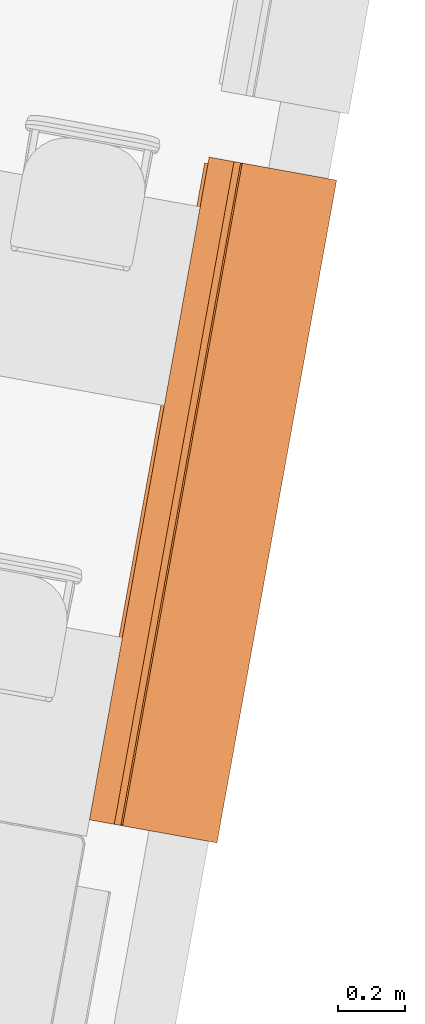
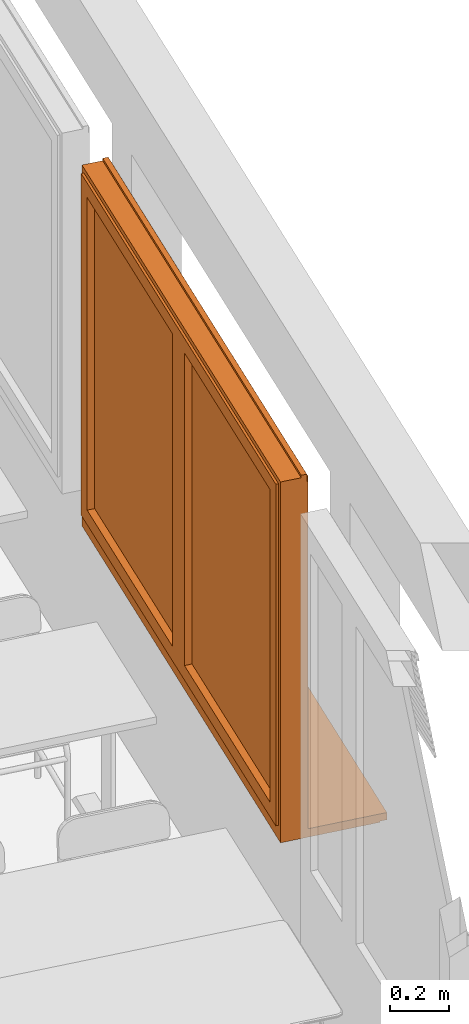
# One storey, part 55 of 79: 1 proxy.
"""IFC2X3 building model written with IfcOpenShell, lengths in metres."""

from ifc_helpers import new_model, entity, si_unit, converted_unit, derived_unit, money_unit, direction, frame, origin_with_axes, place, context, subcontext, project, spatial, open_shell, faceted_brep, surface_model, material, type_object, element, save


model = new_model("IFC2X3")

# Units and contexts
model_context = context("Model", 3, precision=1e-05, world=origin_with_axes(), true_north=direction((0.0, 1.0)))
body_context = subcontext(model_context, "Body", "Model", "MODEL_VIEW")
ifc_project = project(units=[si_unit("LENGTHUNIT", "METRE"), si_unit("AREAUNIT", "SQUARE_METRE"), si_unit("VOLUMEUNIT", "CUBIC_METRE"), converted_unit("PLANEANGLEUNIT", "DEGREE", entity("IfcPlaneAngleMeasure", 0.0174532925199), si_unit("PLANEANGLEUNIT", "RADIAN"), dimensions=[0, 0, 0, 0, 0, 0, 0]), money_unit("CHF"), converted_unit("TIMEUNIT", "Year", entity("IfcTimeMeasure", 31556926.0), si_unit("TIMEUNIT", "SECOND"), dimensions=[0, 0, 1, 0, 0, 0, 0]), si_unit("MASSUNIT", "GRAM", prefix="KILO"), si_unit("THERMODYNAMICTEMPERATUREUNIT", "DEGREE_CELSIUS"), si_unit("LUMINOUSINTENSITYUNIT", "LUMEN"), si_unit("ENERGYUNIT", "JOULE", prefix="MEGA"), derived_unit("THERMALCONDUCTANCEUNIT", [(si_unit("POWERUNIT", "WATT"), 1), (si_unit("LENGTHUNIT", "METRE"), -1), (si_unit("THERMODYNAMICTEMPERATUREUNIT", "KELVIN"), -1)]), derived_unit("SPECIFICHEATCAPACITYUNIT", [(si_unit("ENERGYUNIT", "JOULE"), 1), (si_unit("MASSUNIT", "GRAM", prefix="KILO"), -1), (si_unit("THERMODYNAMICTEMPERATUREUNIT", "KELVIN"), -1)]), derived_unit("MASSDENSITYUNIT", [(si_unit("MASSUNIT", "GRAM", prefix="KILO"), 1), (si_unit("VOLUMEUNIT", "CUBIC_METRE"), -1)])], contexts=[model_context])

# Site, building, storey
site_placement = place(None, frame((0.0, 0.0, 0.0), z_axis=(0.0, 0.0, 1.0), x_axis=(-0.177771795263, -0.984071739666, 0.0)))
site = spatial("IfcSite", under=ifc_project, at=site_placement, Name="Site", CompositionType="ELEMENT")
building_placement = place(site_placement, origin_with_axes())
building = spatial("IfcBuilding", under=site, at=building_placement, Name="Bâtiment", CompositionType="ELEMENT")
storey_placement = place(building_placement, origin_with_axes())
storey = spatial("IfcBuildingStorey", under=building, at=storey_placement, Name="RDC", CompositionType="ELEMENT", Elevation=0.0)

# Proxy
ifc_material = material(Name="Matériau de construction IFC")
building_element_proxy_type = type_object("IfcBuildingElementProxyType", Name="Fenêtre double 21", PredefinedType="NOTDEFINED")
proxy_placement = place(storey_placement, frame((162.299841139, -148.117150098, 1.0), z_axis=(0.0, 0.0, 1.0), x_axis=(-1.0, 0.0, 0.0)))
element("IfcBuildingElementProxy", 1, at=proxy_placement, inside=storey, type_object=building_element_proxy_type, material=ifc_material, Name="Fen classe-200", context=body_context, shape_type="SurfaceModel", body=[
    faceted_brep([(2.0, 0.285, 0.005), (2.0, 0.285, 0.035), (2.0, 0.0, 0.035), (2.0, 0.0, 0.005), (0.0, 0.285, 0.005), (0.0, 0.285, 0.035), (0.0, 0.0, 0.035), (0.0, -0.0249999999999, 0.035), (2.0, -0.0249999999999, 0.035), (2.0, -0.0249999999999, 0.005), (0.0, -0.0249999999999, 0.005), (0.0, 0.0, 0.005)], [[[0, 1, 2, 3]], [[4, 5, 1, 0]], [[1, 5, 6, 7, 8, 2]], [[3, 2, 8, 9]], [[0, 3, 9, 10, 11, 4]], [[11, 6, 5, 4]], [[10, 7, 6, 11]], [[9, 8, 7, 10]]]),
    faceted_brep([(2.0, 0.285, 0.0), (2.0, 0.285, 0.005), (2.0, 0.0, 0.005), (2.0, 0.0, 0.0), (0.0, 0.285, 0.0), (0.0, 0.285, 0.005), (0.0, 0.0, 0.005), (0.0, 0.0, 0.0)], [[[0, 1, 2, 3]], [[4, 5, 1, 0]], [[1, 5, 6, 2]], [[3, 2, 6, 7]], [[0, 3, 7, 4]], [[7, 6, 5, 4]]]),
    faceted_brep([(2.0, 0.285, 1.48), (2.0, 0.265, 1.48), (1.997, 0.265, 1.48), (1.997, 0.285, 1.48), (2.0, 0.285, 1.51), (2.0, 0.265, 1.51), (1.997, 0.265, 1.51), (1.997, 0.285, 1.51)], [[[0, 1, 2, 3]], [[0, 4, 5, 1]], [[1, 5, 6, 2]], [[3, 2, 6, 7]], [[4, 0, 3, 7]], [[5, 4, 7, 6]]]),
    faceted_brep([(0.00299999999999, 0.285, 1.48), (0.00299999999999, 0.265, 1.48), (0.0, 0.265, 1.48), (0.0, 0.285, 1.48), (0.00299999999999, 0.285, 1.51), (0.00299999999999, 0.265, 1.51), (0.0, 0.265, 1.51), (0.0, 0.285, 1.51)], [[[0, 1, 2, 3]], [[0, 4, 5, 1]], [[1, 5, 6, 2]], [[3, 2, 6, 7]], [[4, 0, 3, 7]], [[5, 4, 7, 6]]]),
    faceted_brep([(1.997, 0.285, 1.48), (1.997, 0.282, 1.48), (0.00299999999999, 0.282, 1.48), (0.00299999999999, 0.285, 1.48), (1.997, 0.285, 1.51), (1.997, 0.265, 1.51), (1.997, 0.265, 1.48), (1.997, 0.268, 1.48), (1.997, 0.268, 1.5), (1.997, 0.26, 1.5), (1.997, 0.26, 1.48), (1.997, 0.263, 1.48), (1.997, 0.263, 1.503), (1.997, 0.268, 1.503), (1.997, 0.268, 1.507), (1.997, 0.282, 1.507), (1.997, 0.282, 1.5), (0.00299999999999, 0.282, 1.5), (0.00299999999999, 0.282, 1.507), (0.00299999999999, 0.268, 1.507), (0.00299999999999, 0.268, 1.503), (0.00299999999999, 0.263, 1.503), (0.00299999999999, 0.263, 1.48), (0.00299999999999, 0.26, 1.48), (0.00299999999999, 0.26, 1.5), (0.00299999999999, 0.268, 1.5), (0.00299999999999, 0.268, 1.48), (0.00299999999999, 0.265, 1.48), (0.00299999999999, 0.265, 1.51), (0.00299999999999, 0.285, 1.51)], [[[0, 1, 2, 3]], [[0, 4, 5, 6, 7, 8, 9, 10, 11, 12, 13, 14, 15, 16, 1]], [[1, 16, 17, 2]], [[3, 2, 17, 18, 19, 20, 21, 22, 23, 24, 25, 26, 27, 28, 29]], [[4, 0, 3, 29]], [[5, 4, 29, 28]], [[6, 5, 28, 27]], [[7, 6, 27, 26]], [[8, 7, 26, 25]], [[9, 8, 25, 24]], [[10, 9, 24, 23]], [[11, 10, 23, 22]], [[12, 11, 22, 21]], [[13, 12, 21, 20]], [[14, 13, 20, 19]], [[15, 14, 19, 18]], [[16, 15, 18, 17]]]),
    faceted_brep([(0.0, 0.285, 0.03), (0.0, 0.26, 0.03), (0.0, 0.26, 1.48), (0.0, 0.285, 1.48), (0.025, 0.285, 0.03), (0.025, 0.282, 0.03), (0.00299999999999, 0.282, 0.03), (0.00299999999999, 0.263, 0.03), (0.025, 0.263, 0.03), (0.025, 0.26, 0.03), (0.025, 0.26, 1.48), (0.025, 0.263, 1.48), (0.00299999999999, 0.263, 1.48), (0.00299999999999, 0.282, 1.48), (0.025, 0.282, 1.48), (0.025, 0.285, 1.48)], [[[0, 1, 2, 3]], [[0, 4, 5, 6, 7, 8, 9, 1]], [[1, 9, 10, 2]], [[3, 2, 10, 11, 12, 13, 14, 15]], [[4, 0, 3, 15]], [[5, 4, 15, 14]], [[6, 5, 14, 13]], [[7, 6, 13, 12]], [[8, 7, 12, 11]], [[9, 8, 11, 10]]]),
    faceted_brep([(2.0, 0.285, 0.03), (2.0, 0.285, 1.48), (2.0, 0.26, 1.48), (2.0, 0.26, 0.03), (1.975, 0.285, 0.03), (1.975, 0.285, 1.48), (1.975, 0.282, 1.48), (1.997, 0.282, 1.48), (1.997, 0.263, 1.48), (1.975, 0.263, 1.48), (1.975, 0.26, 1.48), (1.975, 0.26, 0.03), (1.975, 0.263, 0.03), (1.997, 0.263, 0.03), (1.997, 0.282, 0.03), (1.975, 0.282, 0.03)], [[[0, 1, 2, 3]], [[4, 5, 1, 0]], [[1, 5, 6, 7, 8, 9, 10, 2]], [[3, 2, 10, 11]], [[0, 3, 11, 12, 13, 14, 15, 4]], [[15, 6, 5, 4]], [[14, 7, 6, 15]], [[13, 8, 7, 14]], [[12, 9, 8, 13]], [[11, 10, 9, 12]]]),
    faceted_brep([(0.00299999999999, 0.27375, 1.505), (1.997, 0.27375, 1.505), (1.997, 0.273333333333, 1.50333333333), (0.00299999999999, 0.273333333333, 1.50333333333), (0.00299999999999, 0.26875, 1.505), (1.997, 0.26875, 1.505), (1.997, 0.268333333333, 1.50333333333), (1.997, 0.268333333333, 1.49666666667), (1.997, 0.27, 1.49), (1.997, 0.275, 1.49), (1.997, 0.273333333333, 1.49666666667), (0.00299999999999, 0.273333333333, 1.49666666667), (0.00299999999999, 0.275, 1.49), (0.00299999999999, 0.27, 1.49), (0.00299999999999, 0.268333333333, 1.49666666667), (0.00299999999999, 0.268333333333, 1.50333333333)], [[[0, 1, 2, 3]], [[1, 0, 4, 5]], [[1, 5, 6, 7, 8, 9, 10, 2]], [[2, 10, 11, 3]], [[4, 0, 3, 11, 12, 13, 14, 15]], [[6, 5, 4, 15]], [[7, 6, 15, 14]], [[8, 7, 14, 13]], [[9, 8, 13, 12]], [[10, 9, 12, 11]]]),
    faceted_brep([(1.997, 0.275, 1.49), (1.997, 0.273333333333, 1.48333333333), (0.00299999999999, 0.273333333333, 1.48333333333), (0.00299999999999, 0.275, 1.49), (1.997, 0.27, 1.49), (1.997, 0.268333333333, 1.48333333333), (1.997, 0.268333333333, 1.47666666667), (1.997, 0.27, 1.47), (1.997, 0.275, 1.47), (1.997, 0.273333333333, 1.47666666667), (0.00299999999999, 0.273333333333, 1.47666666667), (0.00299999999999, 0.275, 1.47), (0.00299999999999, 0.27, 1.47), (0.00299999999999, 0.268333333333, 1.47666666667), (0.00299999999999, 0.268333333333, 1.48333333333), (0.00299999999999, 0.27, 1.49)], [[[0, 1, 2, 3]], [[0, 4, 5, 6, 7, 8, 9, 1]], [[1, 9, 10, 2]], [[3, 2, 10, 11, 12, 13, 14, 15]], [[4, 0, 3, 15]], [[5, 4, 15, 14]], [[6, 5, 14, 13]], [[7, 6, 13, 12]], [[8, 7, 12, 11]], [[9, 8, 11, 10]]]),
    faceted_brep([(1.997, 0.275, 1.47), (1.997, 0.273333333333, 1.46333333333), (0.00299999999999, 0.273333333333, 1.46333333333), (0.00299999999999, 0.275, 1.47), (1.997, 0.27, 1.47), (1.997, 0.268333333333, 1.46333333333), (1.997, 0.268333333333, 1.45666666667), (1.997, 0.27, 1.45), (1.997, 0.275, 1.45), (1.997, 0.273333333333, 1.45666666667), (0.00299999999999, 0.273333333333, 1.45666666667), (0.00299999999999, 0.275, 1.45), (0.00299999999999, 0.27, 1.45), (0.00299999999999, 0.268333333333, 1.45666666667), (0.00299999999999, 0.268333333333, 1.46333333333), (0.00299999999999, 0.27, 1.47)], [[[0, 1, 2, 3]], [[0, 4, 5, 6, 7, 8, 9, 1]], [[1, 9, 10, 2]], [[3, 2, 10, 11, 12, 13, 14, 15]], [[4, 0, 3, 15]], [[5, 4, 15, 14]], [[6, 5, 14, 13]], [[7, 6, 13, 12]], [[8, 7, 12, 11]], [[9, 8, 11, 10]]]),
    faceted_brep([(1.997, 0.275, 1.45), (1.997, 0.273333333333, 1.44333333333), (0.00299999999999, 0.273333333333, 1.44333333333), (0.00299999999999, 0.275, 1.45), (1.997, 0.27, 1.45), (1.997, 0.268333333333, 1.44333333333), (1.997, 0.268333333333, 1.43666666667), (1.997, 0.27, 1.43), (1.997, 0.275, 1.43), (1.997, 0.273333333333, 1.43666666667), (0.00299999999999, 0.273333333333, 1.43666666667), (0.00299999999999, 0.275, 1.43), (0.00299999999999, 0.27, 1.43), (0.00299999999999, 0.268333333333, 1.43666666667), (0.00299999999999, 0.268333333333, 1.44333333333), (0.00299999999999, 0.27, 1.45)], [[[0, 1, 2, 3]], [[0, 4, 5, 6, 7, 8, 9, 1]], [[1, 9, 10, 2]], [[3, 2, 10, 11, 12, 13, 14, 15]], [[4, 0, 3, 15]], [[5, 4, 15, 14]], [[6, 5, 14, 13]], [[7, 6, 13, 12]], [[8, 7, 12, 11]], [[9, 8, 11, 10]]]),
    faceted_brep([(1.997, 0.275, 1.43), (1.997, 0.273333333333, 1.42333333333), (0.00299999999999, 0.273333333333, 1.42333333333), (0.00299999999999, 0.275, 1.43), (1.997, 0.27, 1.43), (1.997, 0.268333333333, 1.42333333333), (1.997, 0.268333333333, 1.41666666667), (1.997, 0.27, 1.41), (1.997, 0.275, 1.41), (1.997, 0.273333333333, 1.41666666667), (0.00299999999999, 0.273333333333, 1.41666666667), (0.00299999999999, 0.275, 1.41), (0.00299999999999, 0.27, 1.41), (0.00299999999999, 0.268333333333, 1.41666666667), (0.00299999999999, 0.268333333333, 1.42333333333), (0.00299999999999, 0.27, 1.43)], [[[0, 1, 2, 3]], [[0, 4, 5, 6, 7, 8, 9, 1]], [[1, 9, 10, 2]], [[3, 2, 10, 11, 12, 13, 14, 15]], [[4, 0, 3, 15]], [[5, 4, 15, 14]], [[6, 5, 14, 13]], [[7, 6, 13, 12]], [[8, 7, 12, 11]], [[9, 8, 11, 10]]]),
    faceted_brep([(1.997, 0.275, 1.41), (1.997, 0.273333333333, 1.40333333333), (0.00299999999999, 0.273333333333, 1.40333333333), (0.00299999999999, 0.275, 1.41), (1.997, 0.27, 1.41), (1.997, 0.268333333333, 1.40333333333), (1.997, 0.268333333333, 1.39666666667), (1.997, 0.27, 1.39), (1.997, 0.275, 1.39), (1.997, 0.273333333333, 1.39666666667), (0.00299999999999, 0.273333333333, 1.39666666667), (0.00299999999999, 0.275, 1.39), (0.00299999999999, 0.27, 1.39), (0.00299999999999, 0.268333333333, 1.39666666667), (0.00299999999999, 0.268333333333, 1.40333333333), (0.00299999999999, 0.27, 1.41)], [[[0, 1, 2, 3]], [[0, 4, 5, 6, 7, 8, 9, 1]], [[1, 9, 10, 2]], [[3, 2, 10, 11, 12, 13, 14, 15]], [[4, 0, 3, 15]], [[5, 4, 15, 14]], [[6, 5, 14, 13]], [[7, 6, 13, 12]], [[8, 7, 12, 11]], [[9, 8, 11, 10]]]),
    faceted_brep([(1.997, 0.275, 1.39), (1.997, 0.273333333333, 1.38333333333), (0.00299999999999, 0.273333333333, 1.38333333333), (0.00299999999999, 0.275, 1.39), (1.997, 0.27, 1.39), (1.997, 0.268333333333, 1.38333333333), (1.997, 0.268333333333, 1.37666666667), (1.997, 0.27, 1.37), (1.997, 0.275, 1.37), (1.997, 0.273333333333, 1.37666666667), (0.00299999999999, 0.273333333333, 1.37666666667), (0.00299999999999, 0.275, 1.37), (0.00299999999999, 0.27, 1.37), (0.00299999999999, 0.268333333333, 1.37666666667), (0.00299999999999, 0.268333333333, 1.38333333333), (0.00299999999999, 0.27, 1.39)], [[[0, 1, 2, 3]], [[0, 4, 5, 6, 7, 8, 9, 1]], [[1, 9, 10, 2]], [[3, 2, 10, 11, 12, 13, 14, 15]], [[4, 0, 3, 15]], [[5, 4, 15, 14]], [[6, 5, 14, 13]], [[7, 6, 13, 12]], [[8, 7, 12, 11]], [[9, 8, 11, 10]]]),
    faceted_brep([(1.997, 0.275, 1.37), (1.997, 0.273333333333, 1.36333333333), (0.00299999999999, 0.273333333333, 1.36333333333), (0.00299999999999, 0.275, 1.37), (1.997, 0.27, 1.37), (1.997, 0.268333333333, 1.36333333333), (1.997, 0.268333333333, 1.35666666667), (1.997, 0.27, 1.35), (1.997, 0.275, 1.35), (1.997, 0.273333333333, 1.35666666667), (0.00299999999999, 0.273333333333, 1.35666666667), (0.00299999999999, 0.275, 1.35), (0.00299999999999, 0.27, 1.35), (0.00299999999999, 0.268333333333, 1.35666666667), (0.00299999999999, 0.268333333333, 1.36333333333), (0.00299999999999, 0.27, 1.37)], [[[0, 1, 2, 3]], [[0, 4, 5, 6, 7, 8, 9, 1]], [[1, 9, 10, 2]], [[3, 2, 10, 11, 12, 13, 14, 15]], [[4, 0, 3, 15]], [[5, 4, 15, 14]], [[6, 5, 14, 13]], [[7, 6, 13, 12]], [[8, 7, 12, 11]], [[9, 8, 11, 10]]]),
    faceted_brep([(1.997, 0.275, 1.35), (1.997, 0.273333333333, 1.34333333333), (0.00299999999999, 0.273333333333, 1.34333333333), (0.00299999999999, 0.275, 1.35), (1.997, 0.27, 1.35), (1.997, 0.268333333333, 1.34333333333), (1.997, 0.268333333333, 1.33666666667), (1.997, 0.27, 1.33), (1.997, 0.275, 1.33), (1.997, 0.273333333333, 1.33666666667), (0.00299999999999, 0.273333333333, 1.33666666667), (0.00299999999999, 0.275, 1.33), (0.00299999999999, 0.27, 1.33), (0.00299999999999, 0.268333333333, 1.33666666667), (0.00299999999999, 0.268333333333, 1.34333333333), (0.00299999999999, 0.27, 1.35)], [[[0, 1, 2, 3]], [[0, 4, 5, 6, 7, 8, 9, 1]], [[1, 9, 10, 2]], [[3, 2, 10, 11, 12, 13, 14, 15]], [[4, 0, 3, 15]], [[5, 4, 15, 14]], [[6, 5, 14, 13]], [[7, 6, 13, 12]], [[8, 7, 12, 11]], [[9, 8, 11, 10]]]),
    faceted_brep([(1.997, 0.275, 1.33), (1.997, 0.273333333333, 1.32333333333), (0.00299999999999, 0.273333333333, 1.32333333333), (0.00299999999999, 0.275, 1.33), (1.997, 0.27, 1.33), (1.997, 0.268333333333, 1.32333333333), (1.997, 0.268333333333, 1.31666666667), (1.997, 0.27, 1.31), (1.997, 0.275, 1.31), (1.997, 0.273333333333, 1.31666666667), (0.00299999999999, 0.273333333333, 1.31666666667), (0.00299999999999, 0.275, 1.31), (0.00299999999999, 0.27, 1.31), (0.00299999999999, 0.268333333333, 1.31666666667), (0.00299999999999, 0.268333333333, 1.32333333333), (0.00299999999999, 0.27, 1.33)], [[[0, 1, 2, 3]], [[0, 4, 5, 6, 7, 8, 9, 1]], [[1, 9, 10, 2]], [[3, 2, 10, 11, 12, 13, 14, 15]], [[4, 0, 3, 15]], [[5, 4, 15, 14]], [[6, 5, 14, 13]], [[7, 6, 13, 12]], [[8, 7, 12, 11]], [[9, 8, 11, 10]]]),
    faceted_brep([(1.997, 0.275, 1.31), (1.997, 0.273333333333, 1.30333333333), (0.00299999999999, 0.273333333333, 1.30333333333), (0.00299999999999, 0.275, 1.31), (1.997, 0.27, 1.31), (1.997, 0.268333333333, 1.30333333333), (1.997, 0.268333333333, 1.29666666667), (1.997, 0.27, 1.29), (1.997, 0.275, 1.29), (1.997, 0.273333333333, 1.29666666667), (0.00299999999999, 0.273333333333, 1.29666666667), (0.00299999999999, 0.275, 1.29), (0.00299999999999, 0.27, 1.29), (0.00299999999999, 0.268333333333, 1.29666666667), (0.00299999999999, 0.268333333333, 1.30333333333), (0.00299999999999, 0.27, 1.31)], [[[0, 1, 2, 3]], [[0, 4, 5, 6, 7, 8, 9, 1]], [[1, 9, 10, 2]], [[3, 2, 10, 11, 12, 13, 14, 15]], [[4, 0, 3, 15]], [[5, 4, 15, 14]], [[6, 5, 14, 13]], [[7, 6, 13, 12]], [[8, 7, 12, 11]], [[9, 8, 11, 10]]]),
    faceted_brep([(1.997, 0.275, 1.29), (1.997, 0.273333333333, 1.28333333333), (0.00299999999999, 0.273333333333, 1.28333333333), (0.00299999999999, 0.275, 1.29), (1.997, 0.27, 1.29), (1.997, 0.268333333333, 1.28333333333), (1.997, 0.268333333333, 1.27666666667), (1.997, 0.27, 1.27), (1.997, 0.275, 1.27), (1.997, 0.273333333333, 1.27666666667), (0.00299999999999, 0.273333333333, 1.27666666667), (0.00299999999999, 0.275, 1.27), (0.00299999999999, 0.27, 1.27), (0.00299999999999, 0.268333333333, 1.27666666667), (0.00299999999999, 0.268333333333, 1.28333333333), (0.00299999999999, 0.27, 1.29)], [[[0, 1, 2, 3]], [[0, 4, 5, 6, 7, 8, 9, 1]], [[1, 9, 10, 2]], [[3, 2, 10, 11, 12, 13, 14, 15]], [[4, 0, 3, 15]], [[5, 4, 15, 14]], [[6, 5, 14, 13]], [[7, 6, 13, 12]], [[8, 7, 12, 11]], [[9, 8, 11, 10]]]),
    faceted_brep([(1.997, 0.275, 1.27), (1.997, 0.273333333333, 1.26333333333), (0.00299999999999, 0.273333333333, 1.26333333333), (0.00299999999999, 0.275, 1.27), (1.997, 0.27, 1.27), (1.997, 0.268333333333, 1.26333333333), (1.997, 0.268333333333, 1.25666666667), (1.997, 0.27, 1.25), (1.997, 0.275, 1.25), (1.997, 0.273333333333, 1.25666666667), (0.00299999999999, 0.273333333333, 1.25666666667), (0.00299999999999, 0.275, 1.25), (0.00299999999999, 0.27, 1.25), (0.00299999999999, 0.268333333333, 1.25666666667), (0.00299999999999, 0.268333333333, 1.26333333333), (0.00299999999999, 0.27, 1.27)], [[[0, 1, 2, 3]], [[0, 4, 5, 6, 7, 8, 9, 1]], [[1, 9, 10, 2]], [[3, 2, 10, 11, 12, 13, 14, 15]], [[4, 0, 3, 15]], [[5, 4, 15, 14]], [[6, 5, 14, 13]], [[7, 6, 13, 12]], [[8, 7, 12, 11]], [[9, 8, 11, 10]]]),
    faceted_brep([(1.997, 0.275, 1.25), (1.997, 0.273333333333, 1.24333333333), (0.00299999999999, 0.273333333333, 1.24333333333), (0.00299999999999, 0.275, 1.25), (1.997, 0.27, 1.25), (1.997, 0.268333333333, 1.24333333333), (1.997, 0.268333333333, 1.23666666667), (1.997, 0.27, 1.23), (1.997, 0.275, 1.23), (1.997, 0.273333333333, 1.23666666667), (0.00299999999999, 0.273333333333, 1.23666666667), (0.00299999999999, 0.275, 1.23), (0.00299999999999, 0.27, 1.23), (0.00299999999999, 0.268333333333, 1.23666666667), (0.00299999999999, 0.268333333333, 1.24333333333), (0.00299999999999, 0.27, 1.25)], [[[0, 1, 2, 3]], [[0, 4, 5, 6, 7, 8, 9, 1]], [[1, 9, 10, 2]], [[3, 2, 10, 11, 12, 13, 14, 15]], [[4, 0, 3, 15]], [[5, 4, 15, 14]], [[6, 5, 14, 13]], [[7, 6, 13, 12]], [[8, 7, 12, 11]], [[9, 8, 11, 10]]]),
    faceted_brep([(1.997, 0.275, 1.23), (1.997, 0.273333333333, 1.22333333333), (0.00299999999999, 0.273333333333, 1.22333333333), (0.00299999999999, 0.275, 1.23), (1.997, 0.27, 1.23), (1.997, 0.268333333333, 1.22333333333), (1.997, 0.268333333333, 1.21666666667), (1.997, 0.27, 1.21), (1.997, 0.275, 1.21), (1.997, 0.273333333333, 1.21666666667), (0.00299999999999, 0.273333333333, 1.21666666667), (0.00299999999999, 0.275, 1.21), (0.00299999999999, 0.27, 1.21), (0.00299999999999, 0.268333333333, 1.21666666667), (0.00299999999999, 0.268333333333, 1.22333333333), (0.00299999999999, 0.27, 1.23)], [[[0, 1, 2, 3]], [[0, 4, 5, 6, 7, 8, 9, 1]], [[1, 9, 10, 2]], [[3, 2, 10, 11, 12, 13, 14, 15]], [[4, 0, 3, 15]], [[5, 4, 15, 14]], [[6, 5, 14, 13]], [[7, 6, 13, 12]], [[8, 7, 12, 11]], [[9, 8, 11, 10]]]),
    faceted_brep([(1.997, 0.275, 1.21), (1.997, 0.273333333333, 1.20333333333), (0.00299999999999, 0.273333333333, 1.20333333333), (0.00299999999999, 0.275, 1.21), (1.997, 0.27, 1.21), (1.997, 0.268333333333, 1.20333333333), (1.997, 0.268333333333, 1.19666666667), (1.997, 0.27, 1.19), (1.997, 0.275, 1.19), (1.997, 0.273333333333, 1.19666666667), (0.00299999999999, 0.273333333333, 1.19666666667), (0.00299999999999, 0.275, 1.19), (0.00299999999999, 0.27, 1.19), (0.00299999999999, 0.268333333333, 1.19666666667), (0.00299999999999, 0.268333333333, 1.20333333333), (0.00299999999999, 0.27, 1.21)], [[[0, 1, 2, 3]], [[0, 4, 5, 6, 7, 8, 9, 1]], [[1, 9, 10, 2]], [[3, 2, 10, 11, 12, 13, 14, 15]], [[4, 0, 3, 15]], [[5, 4, 15, 14]], [[6, 5, 14, 13]], [[7, 6, 13, 12]], [[8, 7, 12, 11]], [[9, 8, 11, 10]]]),
    faceted_brep([(1.997, 0.275, 1.19), (1.997, 0.273333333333, 1.18333333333), (0.00299999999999, 0.273333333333, 1.18333333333), (0.00299999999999, 0.275, 1.19), (1.997, 0.27, 1.19), (1.997, 0.268333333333, 1.18333333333), (1.997, 0.268333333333, 1.17666666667), (1.997, 0.27, 1.17), (1.997, 0.275, 1.17), (1.997, 0.273333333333, 1.17666666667), (0.00299999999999, 0.273333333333, 1.17666666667), (0.00299999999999, 0.275, 1.17), (0.00299999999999, 0.27, 1.17), (0.00299999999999, 0.268333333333, 1.17666666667), (0.00299999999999, 0.268333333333, 1.18333333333), (0.00299999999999, 0.27, 1.19)], [[[0, 1, 2, 3]], [[0, 4, 5, 6, 7, 8, 9, 1]], [[1, 9, 10, 2]], [[3, 2, 10, 11, 12, 13, 14, 15]], [[4, 0, 3, 15]], [[5, 4, 15, 14]], [[6, 5, 14, 13]], [[7, 6, 13, 12]], [[8, 7, 12, 11]], [[9, 8, 11, 10]]]),
    faceted_brep([(1.997, 0.275, 1.17), (1.997, 0.273333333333, 1.16333333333), (0.00299999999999, 0.273333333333, 1.16333333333), (0.00299999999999, 0.275, 1.17), (1.997, 0.27, 1.17), (1.997, 0.268333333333, 1.16333333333), (1.997, 0.268333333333, 1.15666666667), (1.997, 0.27, 1.15), (1.997, 0.275, 1.15), (1.997, 0.273333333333, 1.15666666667), (0.00299999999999, 0.273333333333, 1.15666666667), (0.00299999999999, 0.275, 1.15), (0.00299999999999, 0.27, 1.15), (0.00299999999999, 0.268333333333, 1.15666666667), (0.00299999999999, 0.268333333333, 1.16333333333), (0.00299999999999, 0.27, 1.17)], [[[0, 1, 2, 3]], [[0, 4, 5, 6, 7, 8, 9, 1]], [[1, 9, 10, 2]], [[3, 2, 10, 11, 12, 13, 14, 15]], [[4, 0, 3, 15]], [[5, 4, 15, 14]], [[6, 5, 14, 13]], [[7, 6, 13, 12]], [[8, 7, 12, 11]], [[9, 8, 11, 10]]]),
    faceted_brep([(1.997, 0.275, 1.15), (1.997, 0.273333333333, 1.14333333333), (0.00299999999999, 0.273333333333, 1.14333333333), (0.00299999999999, 0.275, 1.15), (1.997, 0.27, 1.15), (1.997, 0.268333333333, 1.14333333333), (1.997, 0.268333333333, 1.13666666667), (1.997, 0.27, 1.13), (1.997, 0.275, 1.13), (1.997, 0.273333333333, 1.13666666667), (0.00299999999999, 0.273333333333, 1.13666666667), (0.00299999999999, 0.275, 1.13), (0.00299999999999, 0.27, 1.13), (0.00299999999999, 0.268333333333, 1.13666666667), (0.00299999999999, 0.268333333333, 1.14333333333), (0.00299999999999, 0.27, 1.15)], [[[0, 1, 2, 3]], [[0, 4, 5, 6, 7, 8, 9, 1]], [[1, 9, 10, 2]], [[3, 2, 10, 11, 12, 13, 14, 15]], [[4, 0, 3, 15]], [[5, 4, 15, 14]], [[6, 5, 14, 13]], [[7, 6, 13, 12]], [[8, 7, 12, 11]], [[9, 8, 11, 10]]]),
    faceted_brep([(1.997, 0.275, 1.13), (1.997, 0.273333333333, 1.12333333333), (0.00299999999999, 0.273333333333, 1.12333333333), (0.00299999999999, 0.275, 1.13), (1.997, 0.27, 1.13), (1.997, 0.268333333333, 1.12333333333), (1.997, 0.268333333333, 1.11666666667), (1.997, 0.27, 1.11), (1.997, 0.275, 1.11), (1.997, 0.273333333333, 1.11666666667), (0.00299999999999, 0.273333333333, 1.11666666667), (0.00299999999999, 0.275, 1.11), (0.00299999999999, 0.27, 1.11), (0.00299999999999, 0.268333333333, 1.11666666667), (0.00299999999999, 0.268333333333, 1.12333333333), (0.00299999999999, 0.27, 1.13)], [[[0, 1, 2, 3]], [[0, 4, 5, 6, 7, 8, 9, 1]], [[1, 9, 10, 2]], [[3, 2, 10, 11, 12, 13, 14, 15]], [[4, 0, 3, 15]], [[5, 4, 15, 14]], [[6, 5, 14, 13]], [[7, 6, 13, 12]], [[8, 7, 12, 11]], [[9, 8, 11, 10]]]),
    faceted_brep([(1.997, 0.275, 1.11), (1.997, 0.273333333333, 1.10333333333), (0.00299999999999, 0.273333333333, 1.10333333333), (0.00299999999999, 0.275, 1.11), (1.997, 0.27, 1.11), (1.997, 0.268333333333, 1.10333333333), (1.997, 0.268333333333, 1.09666666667), (1.997, 0.27, 1.09), (1.997, 0.275, 1.09), (1.997, 0.273333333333, 1.09666666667), (0.00299999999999, 0.273333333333, 1.09666666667), (0.00299999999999, 0.275, 1.09), (0.00299999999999, 0.27, 1.09), (0.00299999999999, 0.268333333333, 1.09666666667), (0.00299999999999, 0.268333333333, 1.10333333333), (0.00299999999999, 0.27, 1.11)], [[[0, 1, 2, 3]], [[0, 4, 5, 6, 7, 8, 9, 1]], [[1, 9, 10, 2]], [[3, 2, 10, 11, 12, 13, 14, 15]], [[4, 0, 3, 15]], [[5, 4, 15, 14]], [[6, 5, 14, 13]], [[7, 6, 13, 12]], [[8, 7, 12, 11]], [[9, 8, 11, 10]]]),
    faceted_brep([(1.997, 0.275, 1.09), (1.997, 0.273333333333, 1.08333333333), (0.00299999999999, 0.273333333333, 1.08333333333), (0.00299999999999, 0.275, 1.09), (1.997, 0.27, 1.09), (1.997, 0.268333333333, 1.08333333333), (1.997, 0.268333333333, 1.07666666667), (1.997, 0.27, 1.07), (1.997, 0.275, 1.07), (1.997, 0.273333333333, 1.07666666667), (0.00299999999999, 0.273333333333, 1.07666666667), (0.00299999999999, 0.275, 1.07), (0.00299999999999, 0.27, 1.07), (0.00299999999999, 0.268333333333, 1.07666666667), (0.00299999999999, 0.268333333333, 1.08333333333), (0.00299999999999, 0.27, 1.09)], [[[0, 1, 2, 3]], [[0, 4, 5, 6, 7, 8, 9, 1]], [[1, 9, 10, 2]], [[3, 2, 10, 11, 12, 13, 14, 15]], [[4, 0, 3, 15]], [[5, 4, 15, 14]], [[6, 5, 14, 13]], [[7, 6, 13, 12]], [[8, 7, 12, 11]], [[9, 8, 11, 10]]]),
    faceted_brep([(1.997, 0.275, 1.07), (1.997, 0.273333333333, 1.06333333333), (0.00299999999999, 0.273333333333, 1.06333333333), (0.00299999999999, 0.275, 1.07), (1.997, 0.27, 1.07), (1.997, 0.268333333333, 1.06333333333), (1.997, 0.268333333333, 1.05666666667), (1.997, 0.27, 1.05), (1.997, 0.275, 1.05), (1.997, 0.273333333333, 1.05666666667), (0.00299999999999, 0.273333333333, 1.05666666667), (0.00299999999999, 0.275, 1.05), (0.00299999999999, 0.27, 1.05), (0.00299999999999, 0.268333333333, 1.05666666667), (0.00299999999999, 0.268333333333, 1.06333333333), (0.00299999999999, 0.27, 1.07)], [[[0, 1, 2, 3]], [[0, 4, 5, 6, 7, 8, 9, 1]], [[1, 9, 10, 2]], [[3, 2, 10, 11, 12, 13, 14, 15]], [[4, 0, 3, 15]], [[5, 4, 15, 14]], [[6, 5, 14, 13]], [[7, 6, 13, 12]], [[8, 7, 12, 11]], [[9, 8, 11, 10]]]),
    faceted_brep([(1.997, 0.275, 1.05), (1.997, 0.273333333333, 1.04333333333), (0.00299999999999, 0.273333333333, 1.04333333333), (0.00299999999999, 0.275, 1.05), (1.997, 0.27, 1.05), (1.997, 0.268333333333, 1.04333333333), (1.997, 0.268333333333, 1.03666666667), (1.997, 0.27, 1.03), (1.997, 0.275, 1.03), (1.997, 0.273333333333, 1.03666666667), (0.00299999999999, 0.273333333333, 1.03666666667), (0.00299999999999, 0.275, 1.03), (0.00299999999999, 0.27, 1.03), (0.00299999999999, 0.268333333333, 1.03666666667), (0.00299999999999, 0.268333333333, 1.04333333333), (0.00299999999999, 0.27, 1.05)], [[[0, 1, 2, 3]], [[0, 4, 5, 6, 7, 8, 9, 1]], [[1, 9, 10, 2]], [[3, 2, 10, 11, 12, 13, 14, 15]], [[4, 0, 3, 15]], [[5, 4, 15, 14]], [[6, 5, 14, 13]], [[7, 6, 13, 12]], [[8, 7, 12, 11]], [[9, 8, 11, 10]]]),
    faceted_brep([(1.98, 0.36, 1.47), (1.98, 0.295, 1.47), (1.97, 0.295, 1.47), (1.97, 0.285, 1.47), (2.0, 0.285, 1.47), (2.0, 0.36, 1.47), (1.98, 0.36, 0.07), (1.98, 0.295, 0.07), (1.97, 0.295, 0.07), (1.97, 0.285, 0.07), (2.0, 0.285, 0.07), (2.0, 0.36, 0.07)], [[[0, 1, 2, 3, 4, 5]], [[1, 0, 6, 7]], [[8, 2, 1, 7]], [[2, 8, 9, 3]], [[4, 3, 9, 10]], [[5, 4, 10, 11]], [[6, 0, 5, 11]], [[7, 6, 11, 10, 9, 8]]]),
    faceted_brep([(0.03, 0.295, 1.47), (0.02, 0.295, 1.47), (0.02, 0.36, 1.47), (0.0, 0.36, 1.47), (0.0, 0.285, 1.47), (0.03, 0.285, 1.47), (0.03, 0.295, 0.07), (0.02, 0.295, 0.07), (0.02, 0.36, 0.07), (0.0, 0.36, 0.07), (0.0, 0.285, 0.07), (0.03, 0.285, 0.07)], [[[0, 1, 2, 3, 4, 5]], [[1, 0, 6, 7]], [[8, 2, 1, 7]], [[2, 8, 9, 3]], [[9, 10, 4, 3]], [[10, 11, 5, 4]], [[6, 0, 5, 11]], [[7, 6, 11, 10, 9, 8]]]),
    faceted_brep([(1.01, 0.295, 1.47), (0.99, 0.295, 1.47), (0.99, 0.285, 1.47), (1.01, 0.285, 1.47), (1.01, 0.295, 0.07), (0.99, 0.295, 0.07), (0.99, 0.285, 0.07), (1.01, 0.285, 0.07)], [[[0, 1, 2, 3]], [[1, 0, 4, 5]], [[1, 5, 6, 2]], [[6, 7, 3, 2]], [[4, 0, 3, 7]], [[4, 7, 6, 5]]]),
    faceted_brep([(1.01, 0.295, 0.07), (0.99, 0.295, 0.07), (0.99, 0.285, 0.07), (1.01, 0.285, 0.07), (1.97, 0.295, 0.07), (1.98, 0.295, 0.07), (1.98, 0.295, 0.06), (0.02, 0.295, 0.06), (0.02, 0.295, 0.07), (0.03, 0.295, 0.07), (0.03, 0.285, 0.07), (2.0, 0.285, 0.07), (1.97, 0.285, 0.07), (0.0, 0.285, 0.07), (0.0, 0.285, 0.0), (2.0, 0.285, 0.0), (2.0, 0.36, 0.07), (1.98, 0.36, 0.07), (1.98, 0.36, 0.06), (0.02, 0.36, 0.06), (0.02, 0.36, 0.07), (0.0, 0.36, 0.07), (0.0, 0.36, 0.0), (2.0, 0.36, 0.0)], [[[0, 1, 2, 3]], [[1, 0, 4, 5, 6, 7, 8, 9]], [[1, 9, 10, 2]], [[11, 12, 3, 2, 10, 13, 14, 15]], [[4, 0, 3, 12]], [[5, 4, 12, 11, 16, 17]], [[5, 17, 18, 6]], [[6, 18, 19, 7]], [[19, 20, 8, 7]], [[9, 8, 20, 21, 13, 10]], [[22, 14, 13, 21]], [[23, 15, 14, 22]], [[16, 11, 15, 23]], [[18, 17, 16, 23, 22, 21, 20, 19]]]),
    faceted_brep([(1.98, 0.36, 1.47), (1.98, 0.36, 1.48), (0.02, 0.36, 1.48), (0.02, 0.36, 1.47), (0.0, 0.36, 1.47), (0.0, 0.36, 1.5), (2.0, 0.36, 1.5), (2.0, 0.36, 1.47), (1.98, 0.295, 1.47), (1.98, 0.295, 1.48), (0.02, 0.295, 1.48), (0.02, 0.295, 1.47), (0.03, 0.295, 1.47), (0.03, 0.285, 1.47), (0.0, 0.285, 1.47), (0.0, 0.285, 1.5), (2.0, 0.285, 1.5), (2.0, 0.285, 1.47), (1.97, 0.285, 1.47), (1.97, 0.295, 1.47), (1.01, 0.295, 1.47), (0.99, 0.295, 1.47), (0.99, 0.285, 1.47), (1.01, 0.285, 1.47)], [[[0, 1, 2, 3, 4, 5, 6, 7]], [[1, 0, 8, 9]], [[2, 1, 9, 10]], [[3, 2, 10, 11]], [[11, 12, 13, 14, 4, 3]], [[4, 14, 15, 5]], [[5, 15, 16, 6]], [[6, 16, 17, 7]], [[8, 0, 7, 17, 18, 19]], [[9, 8, 19, 20, 21, 12, 11, 10]], [[12, 21, 22, 13]], [[22, 23, 18, 17, 16, 15, 14, 13]], [[20, 19, 18, 23]], [[20, 23, 22, 21]]]),
    faceted_brep([(1.92, 0.295, 1.42), (1.98, 0.295, 1.42), (1.98, 0.37, 1.42), (1.92, 0.37, 1.42), (1.92, 0.295, 0.12), (1.98, 0.295, 0.12), (1.98, 0.37, 0.12), (1.92, 0.37, 0.12)], [[[0, 1, 2, 3]], [[0, 4, 5, 1]], [[1, 5, 6, 2]], [[3, 2, 6, 7]], [[4, 0, 3, 7]], [[5, 4, 7, 6]]]),
    faceted_brep([(1.06, 0.295, 0.12), (1.0, 0.295, 0.12), (1.0, 0.37, 0.12), (1.06, 0.37, 0.12), (1.06, 0.295, 1.42), (1.0, 0.295, 1.42), (1.0, 0.37, 1.42), (1.06, 0.37, 1.42)], [[[0, 1, 2, 3]], [[0, 4, 5, 1]], [[1, 5, 6, 2]], [[3, 2, 6, 7]], [[4, 0, 3, 7]], [[5, 4, 7, 6]]]),
    faceted_brep([(1.0, 0.295, 0.06), (1.0, 0.295, 0.12), (1.0, 0.37, 0.12), (1.0, 0.37, 0.06), (1.98, 0.295, 0.06), (1.98, 0.295, 0.12), (1.92, 0.295, 0.12), (1.06, 0.295, 0.12), (1.06, 0.37, 0.12), (1.92, 0.37, 0.12), (1.98, 0.37, 0.12), (1.98, 0.37, 0.06)], [[[0, 1, 2, 3]], [[0, 4, 5, 6, 7, 1]], [[1, 7, 8, 2]], [[3, 2, 8, 9, 10, 11]], [[4, 0, 3, 11]], [[5, 4, 11, 10]], [[6, 5, 10, 9]], [[7, 6, 9, 8]]]),
    faceted_brep([(1.98, 0.295, 1.48), (1.98, 0.295, 1.42), (1.98, 0.37, 1.42), (1.98, 0.37, 1.48), (1.0, 0.295, 1.48), (1.0, 0.295, 1.42), (1.06, 0.295, 1.42), (1.92, 0.295, 1.42), (1.92, 0.37, 1.42), (1.06, 0.37, 1.42), (1.0, 0.37, 1.42), (1.0, 0.37, 1.48)], [[[0, 1, 2, 3]], [[0, 4, 5, 6, 7, 1]], [[1, 7, 8, 2]], [[3, 2, 8, 9, 10, 11]], [[4, 0, 3, 11]], [[5, 4, 11, 10]], [[6, 5, 10, 9]], [[7, 6, 9, 8]]]),
    surface_model("IfcShellBasedSurfaceModel", [(1.92, 0.3225, 0.12), (1.92, 0.3225, 1.42), (1.06, 0.3225, 1.42), (1.06, 0.3225, 0.12)], [open_shell([[[0, 1, 2, 3]]])]),
    surface_model("IfcShellBasedSurfaceModel", [(1.92, 0.3425, 0.12), (1.06, 0.3425, 0.12), (1.06, 0.3425, 1.42), (1.92, 0.3425, 1.42)], [open_shell([[[0, 1, 2, 3]]])]),
    faceted_brep([(0.94, 0.295, 1.42), (1.0, 0.295, 1.42), (1.0, 0.37, 1.42), (0.94, 0.37, 1.42), (0.94, 0.295, 0.12), (1.0, 0.295, 0.12), (1.0, 0.37, 0.12), (0.94, 0.37, 0.12)], [[[0, 1, 2, 3]], [[0, 4, 5, 1]], [[1, 5, 6, 2]], [[3, 2, 6, 7]], [[4, 0, 3, 7]], [[5, 4, 7, 6]]]),
    faceted_brep([(0.08, 0.295, 0.12), (0.02, 0.295, 0.12), (0.02, 0.37, 0.12), (0.08, 0.37, 0.12), (0.08, 0.295, 1.42), (0.02, 0.295, 1.42), (0.02, 0.37, 1.42), (0.08, 0.37, 1.42)], [[[0, 1, 2, 3]], [[0, 4, 5, 1]], [[1, 5, 6, 2]], [[3, 2, 6, 7]], [[4, 0, 3, 7]], [[5, 4, 7, 6]]]),
    faceted_brep([(0.02, 0.295, 0.06), (0.02, 0.295, 0.12), (0.02, 0.37, 0.12), (0.02, 0.37, 0.06), (1.0, 0.295, 0.06), (1.0, 0.295, 0.12), (0.94, 0.295, 0.12), (0.08, 0.295, 0.12), (0.08, 0.37, 0.12), (0.94, 0.37, 0.12), (1.0, 0.37, 0.12), (1.0, 0.37, 0.06)], [[[0, 1, 2, 3]], [[0, 4, 5, 6, 7, 1]], [[1, 7, 8, 2]], [[3, 2, 8, 9, 10, 11]], [[4, 0, 3, 11]], [[5, 4, 11, 10]], [[6, 5, 10, 9]], [[7, 6, 9, 8]]]),
    faceted_brep([(1.0, 0.295, 1.48), (1.0, 0.295, 1.42), (1.0, 0.37, 1.42), (1.0, 0.37, 1.48), (0.02, 0.295, 1.48), (0.02, 0.295, 1.42), (0.08, 0.295, 1.42), (0.94, 0.295, 1.42), (0.94, 0.37, 1.42), (0.08, 0.37, 1.42), (0.02, 0.37, 1.42), (0.02, 0.37, 1.48)], [[[0, 1, 2, 3]], [[0, 4, 5, 6, 7, 1]], [[1, 7, 8, 2]], [[3, 2, 8, 9, 10, 11]], [[4, 0, 3, 11]], [[5, 4, 11, 10]], [[6, 5, 10, 9]], [[7, 6, 9, 8]]]),
    surface_model("IfcShellBasedSurfaceModel", [(0.94, 0.3225, 0.12), (0.94, 0.3225, 1.42), (0.08, 0.3225, 1.42), (0.08, 0.3225, 0.12)], [open_shell([[[0, 1, 2, 3]]])]),
    surface_model("IfcShellBasedSurfaceModel", [(0.94, 0.3425, 0.12), (0.08, 0.3425, 0.12), (0.08, 0.3425, 1.42), (0.94, 0.3425, 1.42)], [open_shell([[[0, 1, 2, 3]]])]),
])

save(model, "model.ifc")
